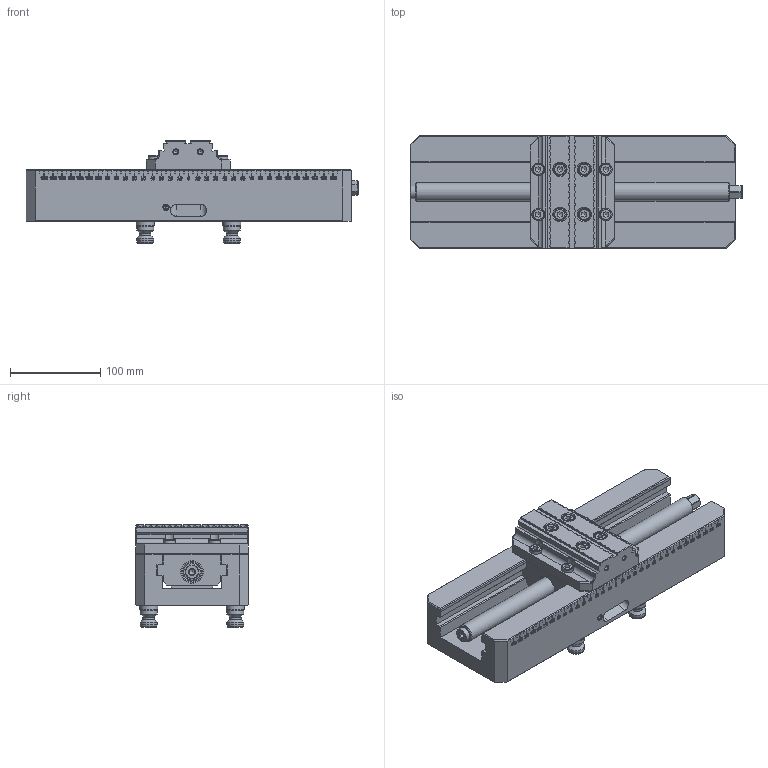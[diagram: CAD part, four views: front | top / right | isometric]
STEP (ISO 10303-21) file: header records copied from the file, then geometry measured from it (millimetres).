
FILE_DESCRIPTION(/* description */ (''),/* implementation_level */ '2;1');
FILE_NAME(/* name */ '',/* time_stamp */ '2026-03-26T21:51:26+08:00',/* author */ ('user'),/* organization */ (''),/* preprocessor_version */ 'ST-DEVELOPER v19.2',/* originating_system */ 'Autodesk Inventor 2024',/* authorisation */ '');
FILE_SCHEMA (('AUTOMOTIVE_DESIGN { 1 0 10303 214 3 1 1 }'));
Products named in the file (1): 1AZV531GA0101_簡化_1
Bounding box: 367.72 x 125 x 113 mm (x, y, z)
Volume: 2143396.4 mm3; surface area: 274704.5 mm2
Topology: 1 solids, 3 shells, 4048 faces, 10861 edges, 7057 vertices
Faces by surface type: plane 2186, bspline 1452, cylinder 252, cone 142, torus 16
Full cylindrical faces by diameter (mm): 2 x2, 3 x4, 3.242 x4, 4.4 x4, 4.917 x12, 10 x1, 12.6 x4, 13 x8, 14 x8, 15 x3, 18.376 x1, 18.7 x1, 19.012 x8, 19.972 x4, 20 x5, 24 x2, 35 x4
Entity records: 137777 total; most frequent: CARTESIAN_POINT 42363, ORIENTED_EDGE 21674, DIRECTION 13766, EDGE_CURVE 10837, VERTEX_POINT 7057, LINE 6970, VECTOR 6970, EDGE_LOOP 4404
